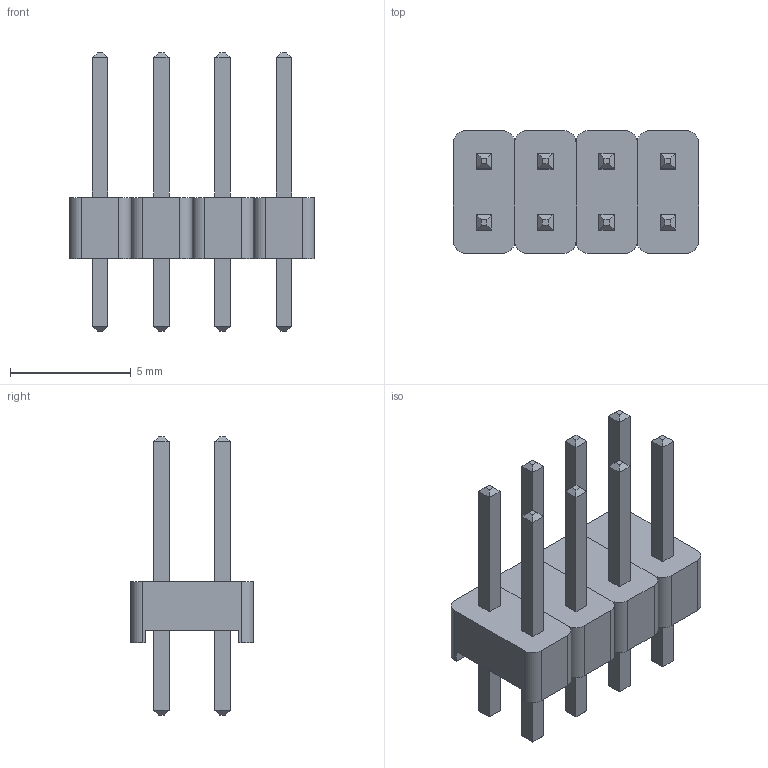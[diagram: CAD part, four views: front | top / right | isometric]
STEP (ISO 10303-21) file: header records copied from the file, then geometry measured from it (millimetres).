
FILE_DESCRIPTION(('FreeCAD Model'),'2;1');
FILE_NAME('Open CASCADE Shape Model','2022-04-06T15:23:55',( 'Engenharia Metaltex'),('Metaltex'), 'Open CASCADE STEP processor 7.5','FreeCAD','Unknown');
FILE_SCHEMA(('AUTOMOTIVE_DESIGN { 1 0 10303 214 1 1 1 1 }'));
Length unit declared in the file: millimetre
Products named in the file (17): BPDC; 1; Base; Pino1; Pino2; 2; Base001; Pino003; Pino004; 3; Base002; Pino006; Pino005; 4; Base003; Pino008; Pino007
Assembly tree (16 placements, depth 3):
  BPDC
    1
      Base
      Pino1
      Pino2
    2
      Base001
      Pino003
      Pino004
    3
      Base002
      Pino006
      Pino005
    4
      Base003
      Pino008
      Pino007
Bounding box: 10.16 x 5.08 x 11.54 mm (x, y, z)
Volume: 139.7 mm3; surface area: 514.5 mm2
Topology: 12 solids, 12 shells, 200 faces, 464 edges, 288 vertices
Faces by surface type: plane 184, cylinder 16
Entity records: 12019 total; most frequent: CARTESIAN_POINT 1993, DIRECTION 1842, LINE 1328, VECTOR 1328, ORIENTED_EDGE 928, PCURVE 928, DEFINITIONAL_REPRESENTATION 928, EDGE_CURVE 464
